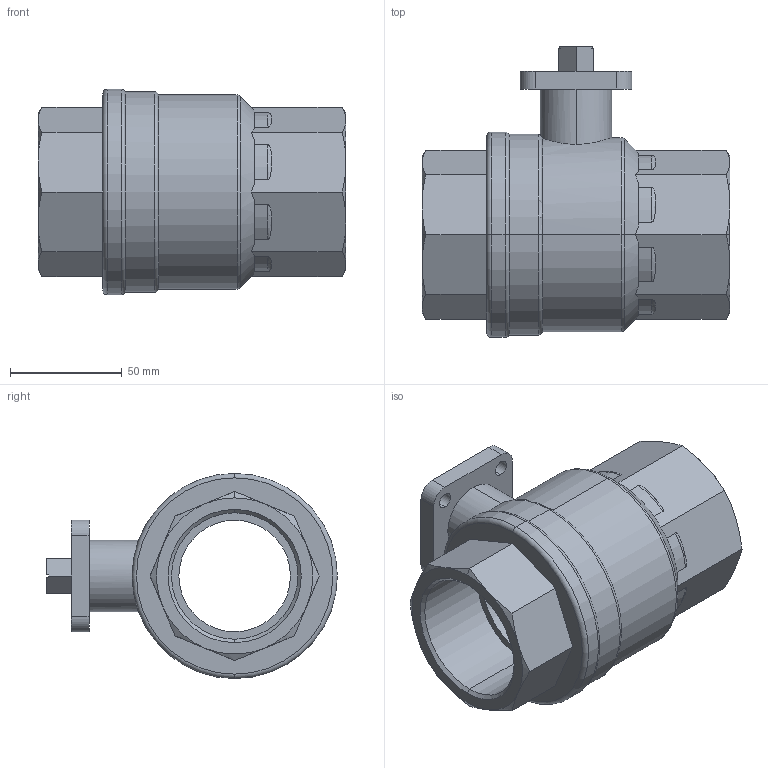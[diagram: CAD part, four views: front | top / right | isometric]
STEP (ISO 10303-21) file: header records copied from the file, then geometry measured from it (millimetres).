
FILE_DESCRIPTION (( 'STEP AP214' ), '1' );
FILE_NAME ('Ballvalve A25-DN50 G2.step', '2010-09-23T08:32:48', ( '' ), ( '' ), 'SwSTEP 2.0', 'SolidWorks 2010', '' );
FILE_SCHEMA (( 'AUTOMOTIVE_DESIGN' ));
Length unit declared in the file: millimetre
Products named in the file (1): Ballvalve A25-DN50 G2
Bounding box: 138 x 130.25 x 92 mm (x, y, z)
Volume: 420150.6 mm3; surface area: 73710.5 mm2
Topology: 1 solids, 1 shells, 121 faces, 301 edges, 188 vertices
Faces by surface type: plane 45, cylinder 36, cone 24, torus 16
Entity records: 4246 total; most frequent: CARTESIAN_POINT 1251, ORIENTED_EDGE 602, DIRECTION 598, EDGE_CURVE 301, AXIS2_PLACEMENT_3D 235, VERTEX_POINT 188, EDGE_LOOP 137, LINE 128
